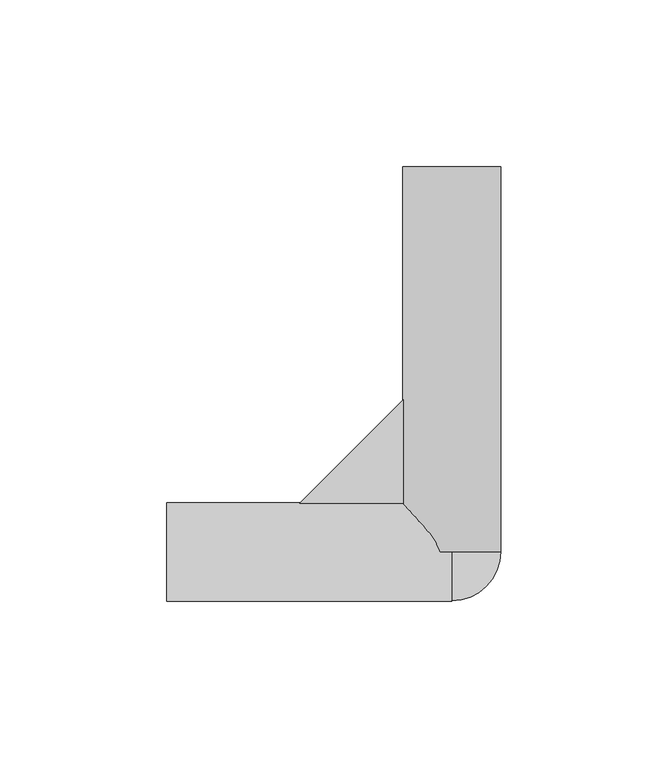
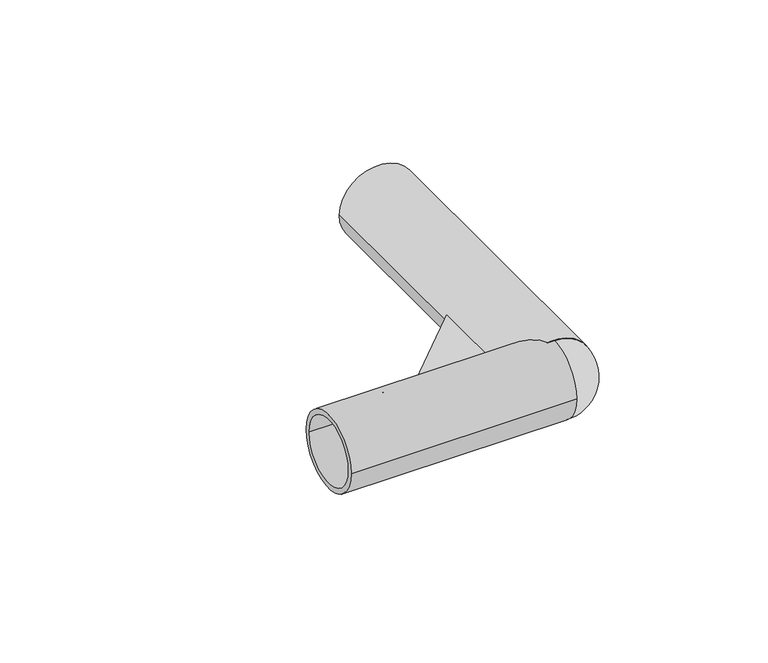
"""IFC4 building model written with IfcOpenShell, lengths in millimetres: valve geometry, Wavin Tappevann Drainage Kit : Dranaige Kit."""

from ifc_helpers import new_model, si_unit, point, frame, origin, place, context, project, spatial, polyline, circle_curve, ellipse_curve, trimmed, source, transform, mapped, element, save
from ifc_brep_helpers import plane_surface, cylinder_surface, revolved_surface, advanced_brep


def valve_1d31a9d0(model_context):
    return source(origin(), model_context, "Body", "AdvancedBrep", [
        advanced_brep(
        [(-60.0, 0.0, 2.1442245), (0.0, 0.0, 2.1442245), (0.0, 15.3, 2.1442245), (-12.5176795, 15.3, 2.1442245), (-12.5176795, 47.4823205, 2.1442245), (0.0, 0.0, -1.8116638), (-60.0, 0.0, -1.8116638), (-12.5701183, 47.4298817, -1.8116638), (-12.5701183, 15.3, -1.8116638), (0.0, 15.3, -1.8116638), (-12.7, 47.3, 0.0), (-12.7, 15.3, 0.0)],
        [
            (0, 1),
            (1, 2),
            (2, 3),
            (3, 4),
            (4, 0),
            (5, 6),
            (6, 7),
            (7, 8),
            (8, 9),
            (9, 5),
            (1, 5),
            (9, 2),
            (6, 0),
            (4, 10, ellipse_curve(frame((0.0, 60.0, 0.0), z_axis=(0.7071067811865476, -0.7071067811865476, 0.0), x_axis=(-0.7071067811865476, -0.7071067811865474, 0.0)), 17.9605122, 12.7)),
            (10, 7, ellipse_curve(frame((0.0, 60.0, 0.0), z_axis=(0.7071067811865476, -0.7071067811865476, 0.0), x_axis=(-0.7071067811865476, -0.7071067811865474, 0.0)), 17.9605122, 12.7)),
            (11, 3, circle_curve(frame((0.0, 15.3, 0.0), z_axis=(0.0, 1.0, 0.0), x_axis=(1.0, 0.0, 0.0)), 12.7)),
            (8, 11, circle_curve(frame((0.0, 15.3, 0.0), z_axis=(0.0, 1.0, 0.0), x_axis=(1.0, 0.0, 0.0)), 12.7)),
            (10, 11),
        ],
        [
            plane_surface(frame((0.0, 60.0, 2.1442245), z_axis=(0.0, 0.0, 1.0), x_axis=(0.0, 1.0, 0.0))),
            plane_surface(frame((0.0, 60.0, -1.8116638), z_axis=(0.0, 0.0, -1.0), x_axis=(0.0, -1.0, 0.0))),
            plane_surface(frame((0.0, 0.0, 2.1442245), z_axis=(1.0, 0.0, 0.0), x_axis=(0.0, 0.0, -1.0))),
            plane_surface(frame((0.0, 60.0, 2.1442245), z_axis=(-0.7071067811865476, 0.7071067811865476, 0.0), x_axis=(0.0, 0.0, -1.0))),
            plane_surface(frame((-60.0, 0.0, 2.1442245), z_axis=(0.0, -1.0, 0.0), x_axis=(0.0, 0.0, -1.0))),
            plane_surface(frame((12.7, 15.3, 0.0), z_axis=(0.0, 1.0, 0.0), x_axis=(0.0, 0.0, 1.0))),
            revolved_surface(polyline([(12.7, 15.299999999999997, 0.0), (12.7, 72.69999997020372, 0.0)]), (0.0, 115.3, 0.0), (0.0, -1.0, 0.0)),
        ],
        [
            (0, [[1, 2, 3, 4, 5]]),
            (1, [[6, 7, 8, 9, 10]]),
            (2, [[11, -10, 12, -2]]),
            (3, [[13, -5, 14, 15, -7]]),
            (4, [[-1, -13, -6, -11]]),
            (5, [[16, -3, -12, -9, 17]]),
            (6, [[-17, -8, -15, 18]]),
            (6, [[-16, -18, -14, -4]]),
        ],
    ),
        advanced_brep(
        [(-14.7, 0.0, 0.0), (14.7, 0.0, 0.0), (-14.7, 115.3, 0.0), (14.7, 115.3, 0.0), (-12.7, 115.3, 0.0), (12.7, 115.3, 0.0), (-12.7, 15.3, 0.0), (12.7, 15.3, 0.0)],
        [
            (0, 1, circle_curve(frame((0.0, 0.0, 0.0), z_axis=(0.0, -1.0, 0.0), x_axis=(1.0, 0.0, 0.0)), 14.7)),
            (1, 0, circle_curve(frame((0.0, 0.0, 0.0), z_axis=(0.0, -1.0, 0.0), x_axis=(1.0, 0.0, 0.0)), 14.7)),
            (2, 3, circle_curve(frame((0.0, 115.3, 0.0), z_axis=(0.0, 1.0, 0.0), x_axis=(1.0, 0.0, 0.0)), 14.7)),
            (3, 2, circle_curve(frame((0.0, 115.3, 0.0), z_axis=(0.0, 1.0, 0.0), x_axis=(1.0, 0.0, 0.0)), 14.7)),
            (4, 5, circle_curve(frame((0.0, 115.3, 0.0), z_axis=(0.0, -1.0, 0.0), x_axis=(1.0, 0.0, 0.0)), 12.7)),
            (5, 4, circle_curve(frame((0.0, 115.3, 0.0), z_axis=(0.0, -1.0, 0.0), x_axis=(1.0, 0.0, 0.0)), 12.7)),
            (0, 2),
            (3, 1),
            (6, 7, circle_curve(frame((0.0, 15.3, 0.0), z_axis=(0.0, 1.0, 0.0), x_axis=(1.0, 0.0, 0.0)), 12.7)),
            (7, 6, circle_curve(frame((0.0, 15.3, 0.0), z_axis=(0.0, 1.0, 0.0), x_axis=(1.0, 0.0, 0.0)), 12.7)),
            (7, 5),
            (4, 6),
        ],
        [
            plane_surface(frame((14.7, 0.0, 0.0), z_axis=(0.0, -1.0, 0.0), x_axis=(0.0, 0.0, 1.0))),
            plane_surface(frame((14.7, 115.3, 0.0), z_axis=(0.0, 1.0, 0.0), x_axis=(0.0, 0.0, -1.0))),
            cylinder_surface(frame((0.0, 115.3, 0.0), z_axis=(0.0, -1.0, 0.0), x_axis=(1.0, 0.0, 0.0)), 14.7),
            plane_surface(frame((12.7, 15.3, 0.0), z_axis=(0.0, 1.0, 0.0), x_axis=(0.0, 0.0, 1.0))),
            revolved_surface(polyline([(12.7, 15.299999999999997, 0.0), (12.7, 115.3, 0.0)]), (0.0, 115.3, 0.0), (0.0, -1.0, 0.0)),
        ],
        [
            (0, [[1, 2]]),
            (1, [[3, 4], [5, 6]]),
            (2, [[-1, 7, -4, 8]]),
            (2, [[-2, -8, -3, -7]]),
            (3, [[9, 10]]),
            (4, [[-10, 11, -5, 12]]),
            (4, [[-9, -12, -6, -11]]),
        ],
    ),
        advanced_brep(
        [(0.0, 0.0, -14.7), (0.0, 14.7, 0.0), (0.0, 0.0, 14.7), (-85.3, -14.7, 0.0), (-85.3, 14.7, 0.0), (-85.3, -12.7, 0.0), (-85.3, 12.7, 0.0), (0.0, -14.7, 0.0), (-60.3, -12.7, 0.0), (-60.3, 12.7, 0.0)],
        [
            (0, 1, circle_curve(frame((0.0, 0.0, 0.0), z_axis=(1.0, 0.0, 0.0), x_axis=(0.0, 1.0, 0.0)), 14.7)),
            (1, 2, circle_curve(frame((0.0, 0.0, 0.0), z_axis=(1.0, 0.0, 0.0), x_axis=(0.0, 1.0, 0.0)), 14.7)),
            (2, 0),
            (3, 4, circle_curve(frame((-85.3, 0.0, 0.0), z_axis=(-1.0, 0.0, 0.0), x_axis=(0.0, 1.0, 0.0)), 14.7)),
            (4, 3, circle_curve(frame((-85.3, 0.0, 0.0), z_axis=(-1.0, 0.0, 0.0), x_axis=(0.0, 1.0, 0.0)), 14.7)),
            (5, 6, circle_curve(frame((-85.3, 0.0, 0.0), z_axis=(1.0, 0.0, 0.0), x_axis=(0.0, 1.0, 0.0)), 12.7)),
            (6, 5, circle_curve(frame((-85.3, 0.0, 0.0), z_axis=(1.0, 0.0, 0.0), x_axis=(0.0, 1.0, 0.0)), 12.7)),
            (4, 1),
            (0, 7, circle_curve(frame((0.0, 0.0, 0.0), z_axis=(-1.0, 0.0, 0.0), x_axis=(0.0, 1.0, 0.0)), 14.7)),
            (7, 3),
            (7, 2, circle_curve(frame((0.0, 0.0, 0.0), z_axis=(-1.0, 0.0, 0.0), x_axis=(0.0, 1.0, 0.0)), 14.7)),
            (2, 0, circle_curve(frame((0.0, 0.0, 0.0), z_axis=(0.0, 1.0, 0.0), x_axis=(-1.0, 0.0, 0.0)), 14.7)),
            (8, 9, circle_curve(frame((-60.3, 0.0, 0.0), z_axis=(-1.0, 0.0, 0.0), x_axis=(0.0, 1.0, 0.0)), 12.7)),
            (9, 8, circle_curve(frame((-60.3, 0.0, 0.0), z_axis=(-1.0, 0.0, 0.0), x_axis=(0.0, 1.0, 0.0)), 12.7)),
            (9, 6),
            (5, 8),
        ],
        [
            plane_surface(frame((0.0, 14.7, 0.0), z_axis=(1.0, 0.0, 0.0), x_axis=(0.0, 0.0, 1.0))),
            plane_surface(frame((-85.3, 14.7, 0.0), z_axis=(-1.0, 0.0, 0.0), x_axis=(0.0, 0.0, -1.0))),
            cylinder_surface(frame((-85.3, 0.0, 0.0), z_axis=(1.0, 0.0, 0.0), x_axis=(0.0, 1.0, 0.0)), 14.7),
            plane_surface(frame((0.0, 0.0, 14.7), z_axis=(0.0, 1.0, 0.0), x_axis=(1.0, 0.0, 0.0))),
            revolved_surface(trimmed(ellipse_curve(frame((0.0, 0.0, 0.0), z_axis=(1.0, 0.0, 0.0), x_axis=(0.0, 1.0, 0.0)), 14.7, 14.7), [point((0.0, 0.0, 14.7))], [point((0.0, 0.0, -14.7))], True, "CARTESIAN"), (0.0, 0.0, 14.7), (0.0, 0.0, -1.0)),
            plane_surface(frame((-60.3, 12.7, 0.0), z_axis=(-1.0, 0.0, 0.0), x_axis=(0.0, 0.0, 1.0))),
            revolved_surface(polyline([(-60.3, 12.7, 0.0), (-85.3, 12.7, 0.0)]), (-85.3, 0.0, 0.0), (1.0, 0.0, 0.0)),
        ],
        [
            (0, [[1, 2, 3]]),
            (1, [[4, 5], [6, 7]]),
            (2, [[-5, 8, -1, 9, 10]]),
            (2, [[-4, -10, 11, -2, -8]]),
            (3, [[12, -3]]),
            (4, [[-12, -11, -9]]),
            (5, [[13, 14]]),
            (6, [[-14, 15, -6, 16]]),
            (6, [[-13, -16, -7, -15]]),
        ],
    ),
    ])


if __name__ == "__main__":
    model = new_model("IFC4")
    model_context = context("Model", 3, world=origin())
    ifc_project = project(units=[si_unit("LENGTHUNIT", "METRE", prefix="MILLI")], contexts=[model_context])
    site = spatial("IfcSite", under=ifc_project)
    building = spatial("IfcBuilding", under=site)
    placement = place(None, origin())
    valve_shape = valve_1d31a9d0(model_context)
    element("IfcValve", 1, ObjectType="Wavin Tappevann Drainage Kit : Dranaige Kit", at=placement, inside=building, context=model_context, shape_type="MappedRepresentation", body=[
        mapped(valve_shape, transform((0.0, 0.0, 0.0), x_axis=(1.0, 0.0, 0.0), y_axis=(0.0, 1.0, 0.0), z_axis=(0.0, 0.0, 1.0))),
    ])
    save(model, "model.ifc")
